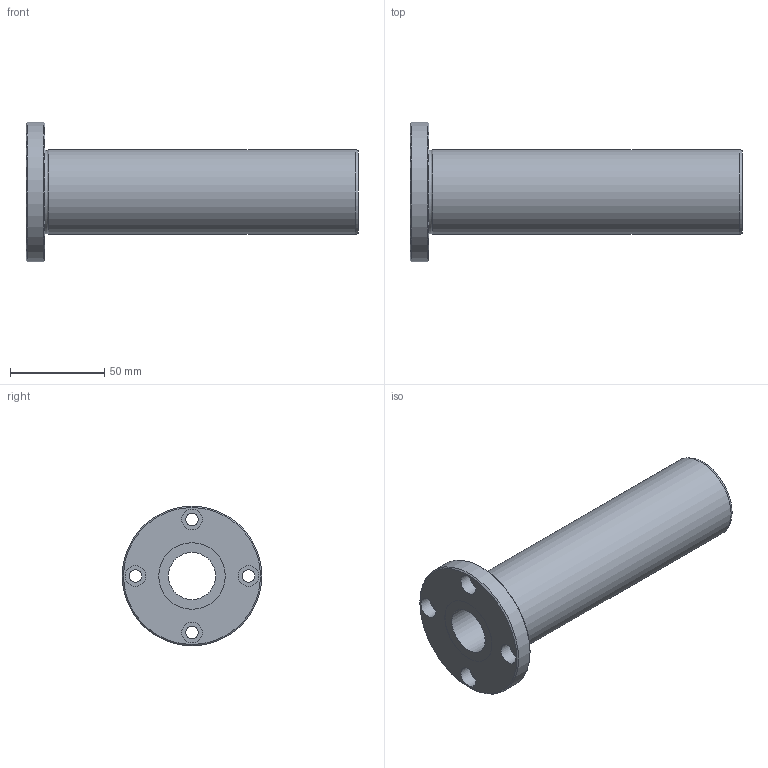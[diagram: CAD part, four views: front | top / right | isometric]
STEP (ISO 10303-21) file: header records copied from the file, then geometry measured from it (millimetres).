
FILE_DESCRIPTION((''),'2;1');
FILE_NAME('D:\製品 (図面)\カタログ用3D\メンテナンスフリー関連\STEP形式\LFL-MF\LFL25MF.stp','2010-06-01T16:04:16',('Tsuchiya'),(''),'Autodesk Inventor 10','Autodesk Inventor 10','');
FILE_SCHEMA(('AUTOMOTIVE_DESIGN { 1 0 10303 214 1 1 1 1 }'));
Length unit declared in the file: millimetre
Products named in the file (1): LFL25MF
Bounding box: 176 x 74 x 74 mm (x, y, z)
Volume: 217290.8 mm3; surface area: 47950.8 mm2
Topology: 1 solids, 1 shells, 26 faces, 47 edges, 30 vertices
Faces by surface type: cylinder 13, plane 9, cone 2, torus 1, bspline 1
Full cylindrical faces by diameter (mm): 6.6 x4, 11 x4, 25 x1, 35.3 x2, 45 x1, 74 x1
Entity records: 665 total; most frequent: CARTESIAN_POINT 149, DIRECTION 112, ORIENTED_EDGE 60, EDGE_LOOP 60, AXIS2_PLACEMENT_3D 56, FACE_BOUND 34, VERTEX_POINT 30, CIRCLE 30
